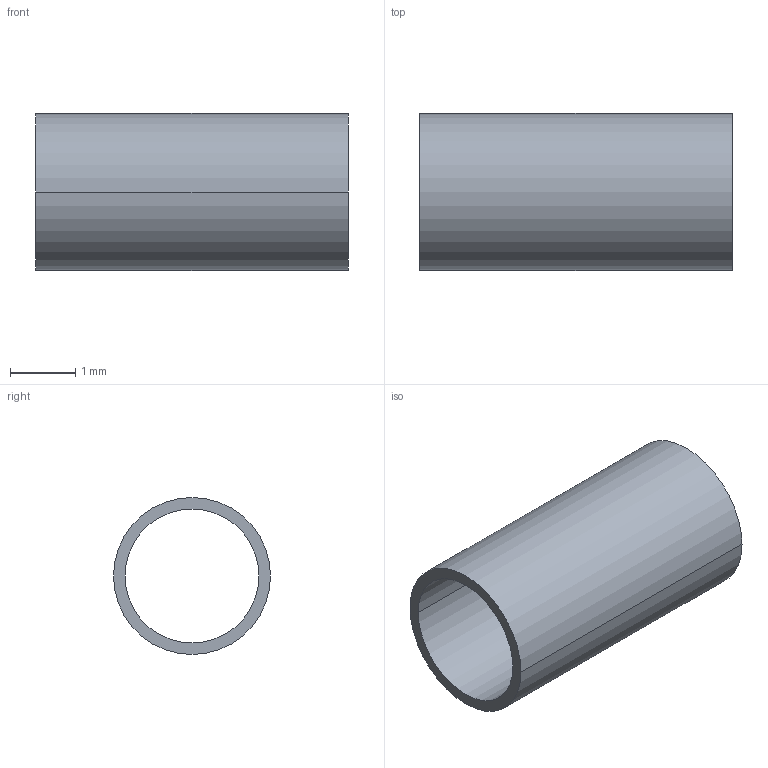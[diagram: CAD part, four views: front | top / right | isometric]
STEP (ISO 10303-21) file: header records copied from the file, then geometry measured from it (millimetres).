
FILE_DESCRIPTION(/* description */ ('(C) Elphel, Inc. 2011. Licensed under CERN OHL v.1.1 or later, see http://ohwr.org/cernohl'),/* implementation_level */ '2;1');
FILE_NAME(/* name */ '0353-19-95',/* time_stamp */ '2012-01-05T11:45:03-07:00',/* author */ (''),/* organization */ ('Elphel, Inc'),/* preprocessor_version */ 'ST-DEVELOPER v12',/* originating_system */ 'VariCAD 2010-3.03; kernel version (20100102)',/* authorisation */ '');
FILE_SCHEMA (('AUTOMOTIVE_DESIGN'));
Length unit declared in the file: millimetre
Products named in the file (1): Part
Bounding box: 4.8 x 2.41 x 2.41 mm (x, y, z)
Volume: 6 mm3; surface area: 69.9 mm2
Topology: 1 solids, 1 shells, 6 faces, 12 edges, 8 vertices
Faces by surface type: cylinder 4, plane 2
Entity records: 195 total; most frequent: DIRECTION 36, CARTESIAN_POINT 28, ORIENTED_EDGE 24, AXIS2_PLACEMENT_3D 16, EDGE_CURVE 12, EDGE_LOOP 8, CIRCLE 8, VERTEX_POINT 8
